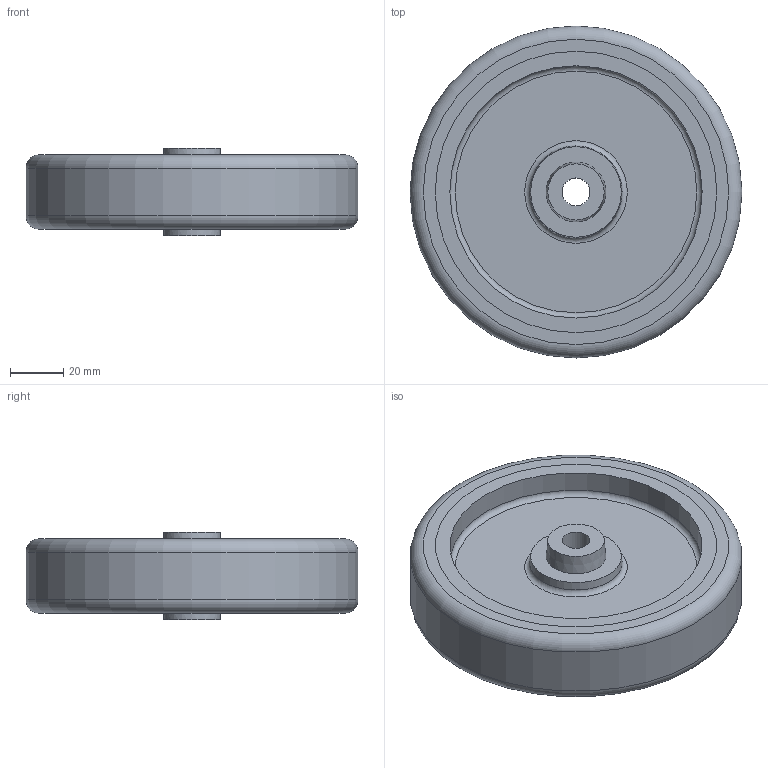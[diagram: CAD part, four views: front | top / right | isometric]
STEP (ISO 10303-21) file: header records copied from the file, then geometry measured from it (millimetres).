
FILE_DESCRIPTION(/* description */ ('www.motedis.com/part/7464','CAx-IF Rec.Pracs.---Representation and Presentation of Product Manufacturing Information (PMI)---4.0---2014-10-13'),/* implementation_level */ '2;1');
FILE_NAME(/* name */ 'Motedis 7464.stp',/* time_stamp */ '2026-04-17T10:50:29+02:00',/* author */ ('Motedis'),/* organization */ ('Motedis GmbH'),/* preprocessor_version */ 'ST-DEVELOPER v20.1',/* originating_system */ 'Autodesk Inventor 2026',/* authorisation */ 'Motedis GmbH');
FILE_SCHEMA (('AP242_MANAGED_MODEL_BASED_3D_ENGINEERING_MIM_LF { 1 0 10303 442 2 1 4 }'));
Length unit declared in the file: millimetre
Products named in the file (1): Motedis 7464
Bounding box: 125 x 125 x 33 mm (x, y, z)
Volume: 210521.5 mm3; surface area: 60636.3 mm2
Topology: 2 solids, 2 shells, 26 faces, 43 edges, 27 vertices
Faces by surface type: plane 10, torus 6, cylinder 6, cone 4
Full cylindrical faces by diameter (mm): 10.5 x1, 95 x2, 106 x2, 125 x1
Entity records: 783 total; most frequent: DIRECTION 162, CARTESIAN_POINT 118, ORIENTED_EDGE 86, AXIS2_PLACEMENT_3D 76, EDGE_CURVE 43, EDGE_LOOP 36, CIRCLE 33, VERTEX_POINT 27
